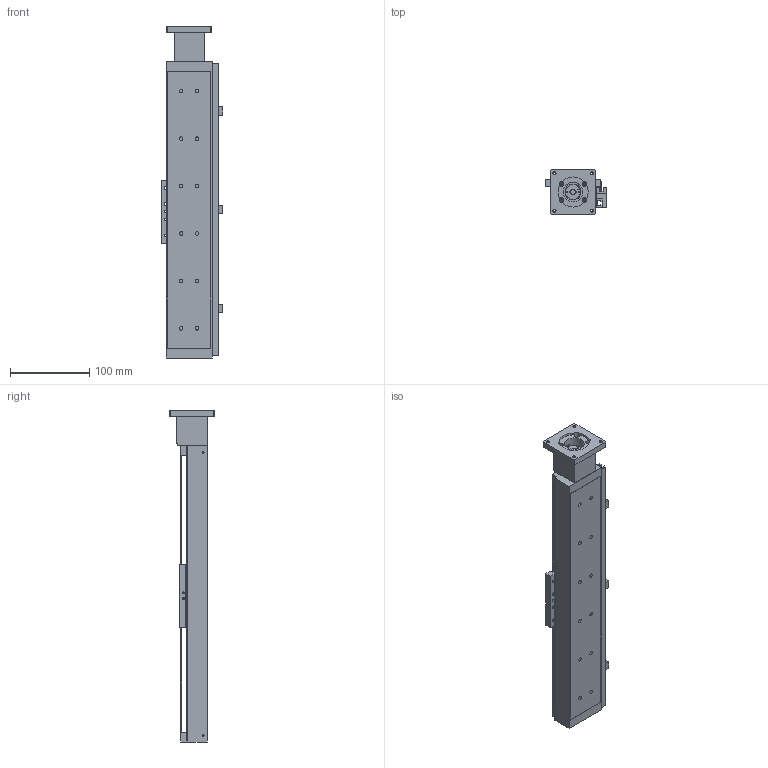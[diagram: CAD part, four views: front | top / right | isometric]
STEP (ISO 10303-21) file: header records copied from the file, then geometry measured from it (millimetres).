
FILE_DESCRIPTION((''),'2;1');
FILE_NAME('E:\uia actuator\UIA actuator 3d- 2009\Standard ball screw actuator\UIA058R7DC\UIA058R7DC3-STEP file\with motor mount\UIA058R7DC step file 2016\UIA058R7DC-250-R0803-M23-P13-C10-S.stp','2016-04-15T16:24:55',('h029'),(''),'Autodesk Inventor 11','Autodesk Inventor 11','');
FILE_SCHEMA(('AUTOMOTIVE_DESIGN { 1 0 10303 214 1 1 1 1 }'));
Length unit declared in the file: millimetre
Products named in the file (10): UIA058R7DC-250-R0803-M23-P13-C10-S; UIA058R7DC-250-BODY; UIA058R7DC-250-SENSOE RAIL; UIA058R7DC-CARRIAGE; UIA058R7DC SENSOR FLAG; 10-100 0110-M23 MotorMOUNT; SOH-20C; SOH-20C-3; SOH-20C-1; SOH-20C-2
Assembly tree (9 placements, depth 3):
  UIA058R7DC-250-R0803-M23-P13-C10-S
    UIA058R7DC-250-BODY
    UIA058R7DC-250-SENSOE RAIL
    UIA058R7DC-CARRIAGE
    UIA058R7DC SENSOR FLAG
    10-100 0110-M23 MotorMOUNT
    SOH-20C
      SOH-20C-3
      SOH-20C-1
      SOH-20C-2
Bounding box: 77.4 x 57 x 420 mm (x, y, z)
Volume: 396193.4 mm3; surface area: 197144.3 mm2
Topology: 11 solids, 11 shells, 344 faces, 931 edges, 614 vertices
Faces by surface type: plane 192, cylinder 100, cone 44, bspline 8
Full cylindrical faces by diameter (mm): 2.013 x4, 2.459 x8, 3 x8, 3.242 x12, 3.5 x6, 4 x2, 4.5 x12, 6 x4, 6.35 x1, 7.5 x12, 16 x2, 20 x3, 25 x1
Entity records: 10716 total; most frequent: CARTESIAN_POINT 2203, DIRECTION 1713, ORIENTED_EDGE 1554, EDGE_CURVE 777, AXIS2_PLACEMENT_3D 613, VERTEX_POINT 571, EDGE_LOOP 563, VECTOR 487
